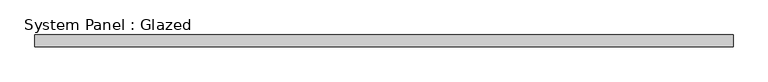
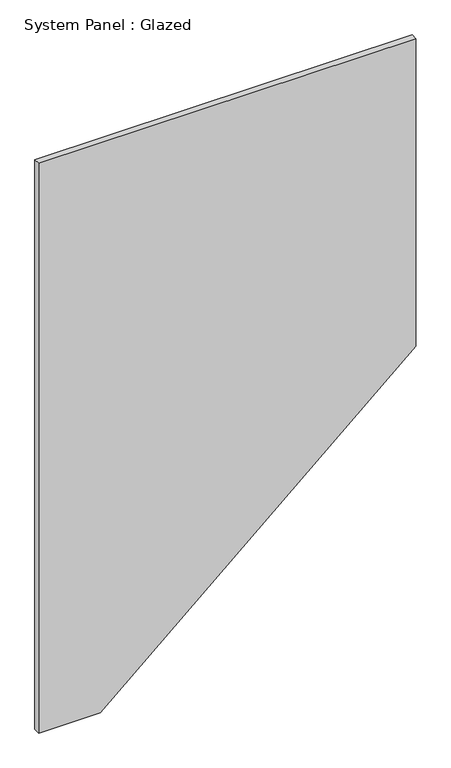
"""IFC4 building model written with IfcOpenShell, lengths in millimetres: plate geometry, System Panel : Glazed."""

from ifc_helpers import new_model, si_unit, frame, origin, place, context, project, spatial, polyline, outline, extrude, source, transform, mapped, element, save


def system_panel_glazed_257b83c7(model_context):
    return source(origin(), model_context, "Body", "SweptSolid", [
        extrude(outline(polyline([(0.0, -735.8695652), (0.0, -496.1766985), (1080.2056155, 735.8695652), (2350.0, 735.8695652), (2350.0, -735.8695652), (0.0, -735.8695652)])), frame((0.0, 24.5, 0.0), z_axis=(0.0, 1.0, 0.0), x_axis=(0.0, 0.0, 1.0)), (0.0, 0.0, 1.0), 25.0),
    ])


if __name__ == "__main__":
    model = new_model("IFC4")
    model_context = context("Model", 3, world=origin())
    ifc_project = project(units=[si_unit("LENGTHUNIT", "METRE", prefix="MILLI")], contexts=[model_context])
    site = spatial("IfcSite", under=ifc_project)
    building = spatial("IfcBuilding", under=site)
    placement = place(None, origin())
    system_panel_glazed_shape = system_panel_glazed_257b83c7(model_context)
    element("IfcPlate", 1, ObjectType="System Panel : Glazed", at=placement, inside=building, context=model_context, shape_type="MappedRepresentation", body=[
        mapped(system_panel_glazed_shape, transform((0.0, 0.0, 0.0), x_axis=(1.0, 0.0, 0.0), y_axis=(0.0, 1.0, 0.0), z_axis=(0.0, 0.0, 1.0))),
    ])
    save(model, "model.ifc")
